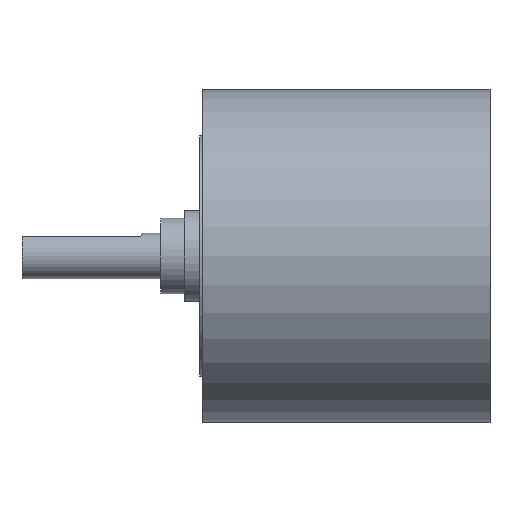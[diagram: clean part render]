
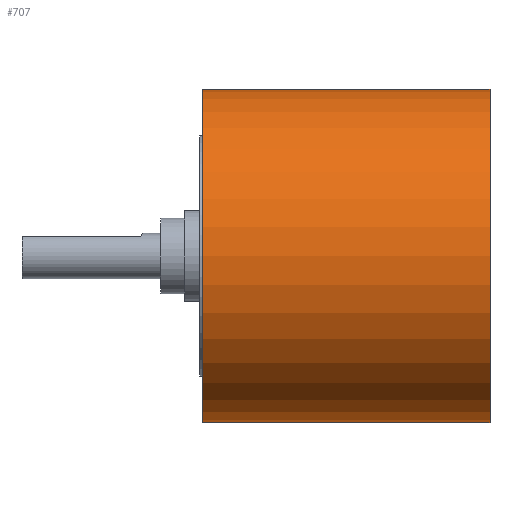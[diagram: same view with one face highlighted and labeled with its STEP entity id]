
A CAD part, top view. The second image highlights one B-rep face of the part: STEP entity #707.
In plain terms, the highlighted cylindrical face has radius 11 mm (diameter 22 mm), a partial arc.
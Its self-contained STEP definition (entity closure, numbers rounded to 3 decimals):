
#6=CARTESIAN_POINT('',(0.2,0.,0.));
#7=DIRECTION('',(1.,0.,0.));
#8=DIRECTION('',(0.,1.,0.));
#9=AXIS2_PLACEMENT_3D('',#6,#7,#8);
#221=DIRECTION('',(-1.,0.,0.));
#222=VECTOR('',#221,18.95);
#223=CARTESIAN_POINT('',(19.15,11.,0.));
#224=LINE('',#223,#222);
#225=DIRECTION('',(-1.,0.,0.));
#226=VECTOR('',#225,18.95);
#227=CARTESIAN_POINT('',(19.15,-11.,0.));
#228=LINE('',#227,#226);
#234=CARTESIAN_POINT('',(19.15,0.,0.));
#235=DIRECTION('',(1.,0.,0.));
#236=DIRECTION('',(0.,1.,0.));
#237=AXIS2_PLACEMENT_3D('',#234,#235,#236);
#275=CARTESIAN_POINT('',(19.15,11.,0.));
#276=CARTESIAN_POINT('',(0.2,11.,0.));
#277=VERTEX_POINT('',#275);
#278=VERTEX_POINT('',#276);
#291=CARTESIAN_POINT('',(19.15,-11.,0.));
#292=CARTESIAN_POINT('',(0.2,-11.,0.));
#293=VERTEX_POINT('',#291);
#294=VERTEX_POINT('',#292);
#695=CARTESIAN_POINT('',(-11.75,0.,0.));
#696=DIRECTION('',(1.,0.,0.));
#697=DIRECTION('',(0.,-1.,0.));
#698=AXIS2_PLACEMENT_3D('',#695,#696,#697);
#699=CYLINDRICAL_SURFACE('',#698,11.);
#700=ORIENTED_EDGE('',*,*,#685,.F.);
#702=ORIENTED_EDGE('',*,*,#701,.T.);
#703=ORIENTED_EDGE('',*,*,#688,.T.);
#704=ORIENTED_EDGE('',*,*,#349,.F.);
#705=EDGE_LOOP('',(#700,#702,#703,#704));
#706=FACE_OUTER_BOUND('',#705,.F.);
#707=ADVANCED_FACE('',(#706),#699,.T.);
#10=CIRCLE('',#9,11.);
#238=CIRCLE('',#237,11.);
#349=EDGE_CURVE('',#278,#294,#10,.T.);
#685=EDGE_CURVE('',#277,#278,#224,.T.);
#688=EDGE_CURVE('',#293,#294,#228,.T.);
#701=EDGE_CURVE('',#277,#293,#238,.T.);
